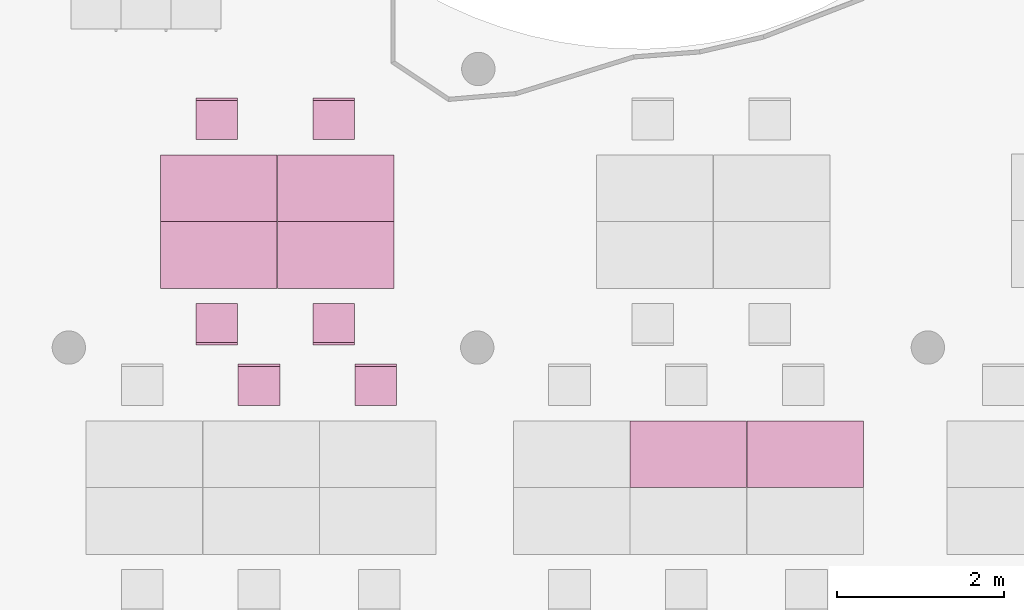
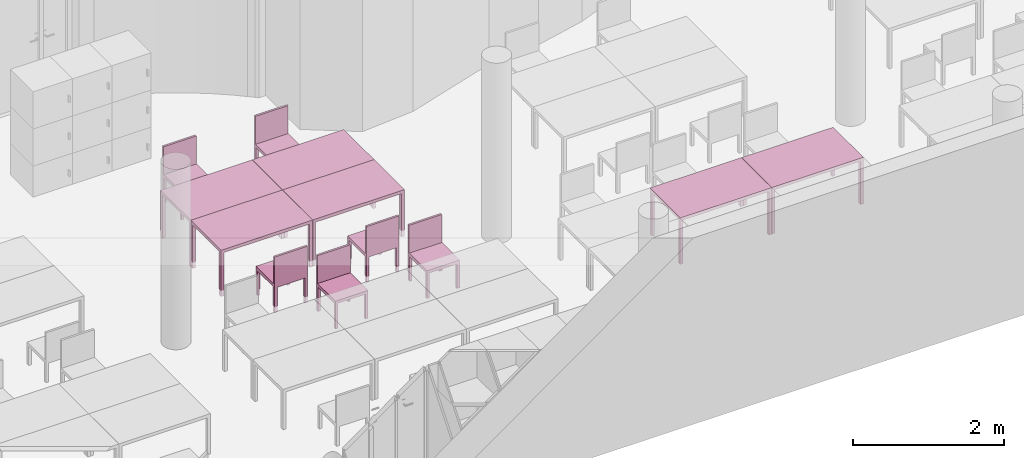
"""IFC4 building model written with IfcOpenShell, lengths in metres."""

from ifc_helpers import new_model, entity, si_unit, converted_unit, derived_unit, frame, origin, place, context, subcontext, project, spatial, faceted_brep, element, save


model = new_model("IFC4")

# Units and contexts
model_context = context("Model", 3, precision=1e-05, world=origin())
body_context = subcontext(model_context, "Body", "Model", "MODEL_VIEW")
ifc_project = project(units=[si_unit("LENGTHUNIT", "METRE"), si_unit("AREAUNIT", "SQUARE_METRE"), si_unit("VOLUMEUNIT", "CUBIC_METRE"), si_unit("MASSUNIT", "GRAM", prefix="KILO"), converted_unit("PLANEANGLEUNIT", "DEGREE", entity("IfcPlaneAngleMeasure", 0.0174532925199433), si_unit("PLANEANGLEUNIT", "RADIAN"), dimensions=[0, 0, 0, 0, 0, 0, 0]), derived_unit("THERMALTRANSMITTANCEUNIT", [(si_unit("POWERUNIT", "WATT"), 1), (si_unit("THERMODYNAMICTEMPERATUREUNIT", "KELVIN"), -1), (si_unit("LENGTHUNIT", "METRE"), -2)]), derived_unit("VOLUMETRICFLOWRATEUNIT", [(si_unit("LENGTHUNIT", "METRE"), 3), (converted_unit("TIMEUNIT", "hour", entity("IfcTimeMeasure", 3600.0), si_unit("TIMEUNIT", "SECOND"), dimensions=[0, 0, 1, 0, 0, 0, 0]), -1), (si_unit("LENGTHUNIT", "METRE"), -1)])], contexts=[model_context])

# Building, storeys
building_placement = place(None, origin())
building = spatial("IfcBuilding", under=ifc_project, at=building_placement, Name="HABITATGE PLURIFAMILIAR", CompositionType="ELEMENT")
storey_1_placement = place(building_placement, frame((0.0, 0.0, 15.28)))
storey_1 = spatial("IfcBuildingStorey", under=building, at=storey_1_placement, Name="PLANTA QUARTA", CompositionType="ELEMENT", Elevation=15.28)
storey_2_placement = place(storey_1_placement, frame((0.0, 0.0, 12.27)))
storey_2 = spatial("IfcBuildingStorey", under=storey_1, at=storey_2_placement, Name="NOU", CompositionType="PARTIAL")

# Furniture
furniture_1_placement = place(storey_2_placement, frame((412.567008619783, 16.119528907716, -12.3699999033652)))
element("IfcFurniture", 1, at=furniture_1_placement, inside=storey_2, Name="Taula 140X80_P4", context=body_context, shape_type="Brep", body=[
    faceted_brep([(0.04375, 0.05, 0.0), (0.0, 0.05, 0.0), (0.0, 0.0, 0.0), (0.04375, 0.0, 0.0), (0.04375, 0.0, 0.7), (0.0, 0.0, 0.7), (0.0, 0.05, 0.7), (0.04375, 0.05, 0.7)], [[[0, 1, 2, 3]], [[4, 5, 6, 7]], [[3, 4, 7, 0]], [[2, 5, 4, 3]], [[1, 6, 5, 2]], [[0, 7, 6, 1]]], orient=[[False], [False], [False], [False], [False], [False]]),
    faceted_brep([(0.04375, 0.800069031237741, 0.0), (0.0, 0.800069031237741, 0.0), (0.0, 0.750069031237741, 0.0), (0.04375, 0.750069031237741, 0.0), (0.04375, 0.750069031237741, 0.7), (0.0, 0.750069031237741, 0.7), (0.0, 0.800069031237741, 0.7), (0.04375, 0.800069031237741, 0.7)], [[[0, 1, 2, 3]], [[4, 5, 6, 7]], [[3, 4, 7, 0]], [[2, 5, 4, 3]], [[1, 6, 5, 2]], [[0, 7, 6, 1]]], orient=[[False], [False], [False], [False], [False], [False]]),
    faceted_brep([(1.39732768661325, 0.800069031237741, 0.7), (0.0, 0.800069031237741, 0.7), (0.0, 0.0, 0.7), (1.39732768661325, 0.0, 0.7), (1.39732768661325, 0.0, 0.75), (0.0, 0.0, 0.75), (0.0, 0.800069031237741, 0.75), (1.39732768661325, 0.800069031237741, 0.75)], [[[0, 1, 2, 3]], [[4, 5, 6, 7]], [[3, 4, 7, 0]], [[2, 5, 4, 3]], [[1, 6, 5, 2]], [[0, 7, 6, 1]]], orient=[[False], [False], [False], [False], [False], [False]]),
    faceted_brep([(1.39732768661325, 0.05, 0.0), (1.35357768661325, 0.05, 0.0), (1.35357768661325, 0.0, 0.0), (1.39732768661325, 0.0, 0.0), (1.39732768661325, 0.0, 0.7), (1.35357768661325, 0.0, 0.7), (1.35357768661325, 0.05, 0.7), (1.39732768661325, 0.05, 0.7)], [[[0, 1, 2, 3]], [[4, 5, 6, 7]], [[3, 4, 7, 0]], [[2, 5, 4, 3]], [[1, 6, 5, 2]], [[0, 7, 6, 1]]], orient=[[False], [False], [False], [False], [False], [False]]),
    faceted_brep([(1.39732768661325, 0.800069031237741, 0.0), (1.35357768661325, 0.800069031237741, 0.0), (1.35357768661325, 0.750069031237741, 0.0), (1.39732768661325, 0.750069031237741, 0.0), (1.39732768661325, 0.750069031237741, 0.7), (1.35357768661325, 0.750069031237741, 0.7), (1.35357768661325, 0.800069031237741, 0.7), (1.39732768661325, 0.800069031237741, 0.7)], [[[0, 1, 2, 3]], [[4, 5, 6, 7]], [[3, 4, 7, 0]], [[2, 5, 4, 3]], [[1, 6, 5, 2]], [[0, 7, 6, 1]]], orient=[[False], [False], [False], [False], [False], [False]]),
])
furniture_2_placement = place(storey_2_placement, frame((413.967008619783, 16.119528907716, -12.3699999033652)))
element("IfcFurniture", 2, at=furniture_2_placement, inside=storey_2, Name="Taula 140X80_P4", context=body_context, shape_type="Brep", body=[
    faceted_brep([(0.04375, 0.05, 0.0), (0.0, 0.05, 0.0), (0.0, 0.0, 0.0), (0.04375, 0.0, 0.0), (0.04375, 0.0, 0.7), (0.0, 0.0, 0.7), (0.0, 0.05, 0.7), (0.04375, 0.05, 0.7)], [[[0, 1, 2, 3]], [[4, 5, 6, 7]], [[3, 4, 7, 0]], [[2, 5, 4, 3]], [[1, 6, 5, 2]], [[0, 7, 6, 1]]], orient=[[False], [False], [False], [False], [False], [False]]),
    faceted_brep([(0.04375, 0.800069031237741, 0.0), (0.0, 0.800069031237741, 0.0), (0.0, 0.750069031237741, 0.0), (0.04375, 0.750069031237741, 0.0), (0.04375, 0.750069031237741, 0.7), (0.0, 0.750069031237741, 0.7), (0.0, 0.800069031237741, 0.7), (0.04375, 0.800069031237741, 0.7)], [[[0, 1, 2, 3]], [[4, 5, 6, 7]], [[3, 4, 7, 0]], [[2, 5, 4, 3]], [[1, 6, 5, 2]], [[0, 7, 6, 1]]], orient=[[False], [False], [False], [False], [False], [False]]),
    faceted_brep([(1.39732768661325, 0.800069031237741, 0.7), (0.0, 0.800069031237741, 0.7), (0.0, 0.0, 0.7), (1.39732768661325, 0.0, 0.7), (1.39732768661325, 0.0, 0.75), (0.0, 0.0, 0.75), (0.0, 0.800069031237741, 0.75), (1.39732768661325, 0.800069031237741, 0.75)], [[[0, 1, 2, 3]], [[4, 5, 6, 7]], [[3, 4, 7, 0]], [[2, 5, 4, 3]], [[1, 6, 5, 2]], [[0, 7, 6, 1]]], orient=[[False], [False], [False], [False], [False], [False]]),
    faceted_brep([(1.39732768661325, 0.05, 0.0), (1.35357768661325, 0.05, 0.0), (1.35357768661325, 0.0, 0.0), (1.39732768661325, 0.0, 0.0), (1.39732768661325, 0.0, 0.7), (1.35357768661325, 0.0, 0.7), (1.35357768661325, 0.05, 0.7), (1.39732768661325, 0.05, 0.7)], [[[0, 1, 2, 3]], [[4, 5, 6, 7]], [[3, 4, 7, 0]], [[2, 5, 4, 3]], [[1, 6, 5, 2]], [[0, 7, 6, 1]]], orient=[[False], [False], [False], [False], [False], [False]]),
    faceted_brep([(1.39732768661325, 0.800069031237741, 0.0), (1.35357768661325, 0.800069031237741, 0.0), (1.35357768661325, 0.750069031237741, 0.0), (1.39732768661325, 0.750069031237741, 0.0), (1.39732768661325, 0.750069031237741, 0.7), (1.35357768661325, 0.750069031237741, 0.7), (1.35357768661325, 0.800069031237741, 0.7), (1.39732768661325, 0.800069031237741, 0.7)], [[[0, 1, 2, 3]], [[4, 5, 6, 7]], [[3, 4, 7, 0]], [[2, 5, 4, 3]], [[1, 6, 5, 2]], [[0, 7, 6, 1]]], orient=[[False], [False], [False], [False], [False], [False]]),
])
furniture_3_placement = place(storey_2_placement, frame((406.936957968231, 18.5099524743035, -12.3699999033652)))
element("IfcFurniture", 3, at=furniture_3_placement, inside=storey_2, Name="Taula 140X80_P4", context=body_context, shape_type="Brep", body=[
    faceted_brep([(0.04375, 0.750069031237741, 0.0), (0.04375, 0.800069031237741, 0.0), (0.0, 0.800069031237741, 0.0), (0.0, 0.750069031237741, 0.0), (0.04375, 0.800069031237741, 0.7), (0.04375, 0.750069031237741, 0.7), (0.0, 0.750069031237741, 0.7), (0.0, 0.800069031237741, 0.7)], [[[0, 1, 2, 3]], [[4, 5, 6, 7]], [[1, 0, 5, 4]], [[2, 1, 4, 7]], [[3, 2, 7, 6]], [[0, 3, 6, 5]]], orient=[[False], [False], [False], [False], [False], [False]]),
    faceted_brep([(0.04375, 0.0, 0.0), (0.04375, 0.05, 0.0), (0.0, 0.05, 0.0), (0.0, 0.0, 0.0), (0.04375, 0.05, 0.7), (0.04375, 0.0, 0.7), (0.0, 0.0, 0.7), (0.0, 0.05, 0.7)], [[[0, 1, 2, 3]], [[4, 5, 6, 7]], [[1, 0, 5, 4]], [[2, 1, 4, 7]], [[3, 2, 7, 6]], [[0, 3, 6, 5]]], orient=[[False], [False], [False], [False], [False], [False]]),
    faceted_brep([(1.39732768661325, 0.0, 0.7), (1.39732768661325, 0.800069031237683, 0.7), (0.0, 0.800069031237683, 0.7), (0.0, 0.0, 0.7), (1.39732768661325, 0.800069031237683, 0.75), (1.39732768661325, 0.0, 0.75), (0.0, 0.0, 0.75), (0.0, 0.800069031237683, 0.75)], [[[0, 1, 2, 3]], [[4, 5, 6, 7]], [[1, 0, 5, 4]], [[2, 1, 4, 7]], [[3, 2, 7, 6]], [[0, 3, 6, 5]]], orient=[[False], [False], [False], [False], [False], [False]]),
    faceted_brep([(1.39732768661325, 0.750069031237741, 0.0), (1.39732768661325, 0.800069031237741, 0.0), (1.35357768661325, 0.800069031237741, 0.0), (1.35357768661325, 0.750069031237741, 0.0), (1.39732768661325, 0.800069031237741, 0.7), (1.39732768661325, 0.750069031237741, 0.7), (1.35357768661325, 0.750069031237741, 0.7), (1.35357768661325, 0.800069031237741, 0.7)], [[[0, 1, 2, 3]], [[4, 5, 6, 7]], [[1, 0, 5, 4]], [[2, 1, 4, 7]], [[3, 2, 7, 6]], [[0, 3, 6, 5]]], orient=[[False], [False], [False], [False], [False], [False]]),
    faceted_brep([(1.39732768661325, 0.0, 0.0), (1.39732768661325, 0.05, 0.0), (1.35357768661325, 0.05, 0.0), (1.35357768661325, 0.0, 0.0), (1.39732768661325, 0.05, 0.7), (1.39732768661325, 0.0, 0.7), (1.35357768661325, 0.0, 0.7), (1.35357768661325, 0.05, 0.7)], [[[0, 1, 2, 3]], [[4, 5, 6, 7]], [[1, 0, 5, 4]], [[2, 1, 4, 7]], [[3, 2, 7, 6]], [[0, 3, 6, 5]]], orient=[[False], [False], [False], [False], [False], [False]]),
])
furniture_4_placement = place(storey_2_placement, frame((408.338137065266, 18.5099524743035, -12.3699999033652)))
element("IfcFurniture", 4, at=furniture_4_placement, inside=storey_2, Name="Taula 140X80_P4", context=body_context, shape_type="Brep", body=[
    faceted_brep([(0.04375, 0.750069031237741, 0.0), (0.04375, 0.800069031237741, 0.0), (0.0, 0.800069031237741, 0.0), (0.0, 0.750069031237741, 0.0), (0.04375, 0.800069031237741, 0.7), (0.04375, 0.750069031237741, 0.7), (0.0, 0.750069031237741, 0.7), (0.0, 0.800069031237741, 0.7)], [[[0, 1, 2, 3]], [[4, 5, 6, 7]], [[1, 0, 5, 4]], [[2, 1, 4, 7]], [[3, 2, 7, 6]], [[0, 3, 6, 5]]], orient=[[False], [False], [False], [False], [False], [False]]),
    faceted_brep([(0.04375, 0.0, 0.0), (0.04375, 0.05, 0.0), (0.0, 0.05, 0.0), (0.0, 0.0, 0.0), (0.04375, 0.05, 0.7), (0.04375, 0.0, 0.7), (0.0, 0.0, 0.7), (0.0, 0.05, 0.7)], [[[0, 1, 2, 3]], [[4, 5, 6, 7]], [[1, 0, 5, 4]], [[2, 1, 4, 7]], [[3, 2, 7, 6]], [[0, 3, 6, 5]]], orient=[[False], [False], [False], [False], [False], [False]]),
    faceted_brep([(1.39732768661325, 0.0, 0.7), (1.39732768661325, 0.800069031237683, 0.7), (0.0, 0.800069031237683, 0.7), (0.0, 0.0, 0.7), (1.39732768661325, 0.800069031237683, 0.75), (1.39732768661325, 0.0, 0.75), (0.0, 0.0, 0.75), (0.0, 0.800069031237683, 0.75)], [[[0, 1, 2, 3]], [[4, 5, 6, 7]], [[1, 0, 5, 4]], [[2, 1, 4, 7]], [[3, 2, 7, 6]], [[0, 3, 6, 5]]], orient=[[False], [False], [False], [False], [False], [False]]),
    faceted_brep([(1.39732768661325, 0.750069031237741, 0.0), (1.39732768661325, 0.800069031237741, 0.0), (1.35357768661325, 0.800069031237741, 0.0), (1.35357768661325, 0.750069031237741, 0.0), (1.39732768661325, 0.800069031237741, 0.7), (1.39732768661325, 0.750069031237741, 0.7), (1.35357768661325, 0.750069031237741, 0.7), (1.35357768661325, 0.800069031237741, 0.7)], [[[0, 1, 2, 3]], [[4, 5, 6, 7]], [[1, 0, 5, 4]], [[2, 1, 4, 7]], [[3, 2, 7, 6]], [[0, 3, 6, 5]]], orient=[[False], [False], [False], [False], [False], [False]]),
    faceted_brep([(1.39732768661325, 0.0, 0.0), (1.39732768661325, 0.05, 0.0), (1.35357768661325, 0.05, 0.0), (1.35357768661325, 0.0, 0.0), (1.39732768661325, 0.05, 0.7), (1.39732768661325, 0.0, 0.7), (1.35357768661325, 0.0, 0.7), (1.35357768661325, 0.05, 0.7)], [[[0, 1, 2, 3]], [[4, 5, 6, 7]], [[1, 0, 5, 4]], [[2, 1, 4, 7]], [[3, 2, 7, 6]], [[0, 3, 6, 5]]], orient=[[False], [False], [False], [False], [False], [False]]),
])
furniture_5_placement = place(storey_2_placement, frame((408.338137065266, 19.3100215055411, -12.3699999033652)))
element("IfcFurniture", 5, at=furniture_5_placement, inside=storey_2, Name="Taula 140X80_P4", context=body_context, shape_type="Brep", body=[
    faceted_brep([(0.04375, 0.05, 0.0), (0.0, 0.05, 0.0), (0.0, 0.0, 0.0), (0.04375, 0.0, 0.0), (0.04375, 0.0, 0.7), (0.0, 0.0, 0.7), (0.0, 0.05, 0.7), (0.04375, 0.05, 0.7)], [[[0, 1, 2, 3]], [[4, 5, 6, 7]], [[3, 4, 7, 0]], [[2, 5, 4, 3]], [[1, 6, 5, 2]], [[0, 7, 6, 1]]], orient=[[False], [False], [False], [False], [False], [False]]),
    faceted_brep([(0.04375, 0.800069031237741, 0.0), (0.0, 0.800069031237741, 0.0), (0.0, 0.750069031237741, 0.0), (0.04375, 0.750069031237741, 0.0), (0.04375, 0.750069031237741, 0.7), (0.0, 0.750069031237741, 0.7), (0.0, 0.800069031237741, 0.7), (0.04375, 0.800069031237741, 0.7)], [[[0, 1, 2, 3]], [[4, 5, 6, 7]], [[3, 4, 7, 0]], [[2, 5, 4, 3]], [[1, 6, 5, 2]], [[0, 7, 6, 1]]], orient=[[False], [False], [False], [False], [False], [False]]),
    faceted_brep([(1.39732768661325, 0.800069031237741, 0.7), (0.0, 0.800069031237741, 0.7), (0.0, 0.0, 0.7), (1.39732768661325, 0.0, 0.7), (1.39732768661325, 0.0, 0.75), (0.0, 0.0, 0.75), (0.0, 0.800069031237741, 0.75), (1.39732768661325, 0.800069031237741, 0.75)], [[[0, 1, 2, 3]], [[4, 5, 6, 7]], [[3, 4, 7, 0]], [[2, 5, 4, 3]], [[1, 6, 5, 2]], [[0, 7, 6, 1]]], orient=[[False], [False], [False], [False], [False], [False]]),
    faceted_brep([(1.39732768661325, 0.05, 0.0), (1.35357768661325, 0.05, 0.0), (1.35357768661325, 0.0, 0.0), (1.39732768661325, 0.0, 0.0), (1.39732768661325, 0.0, 0.7), (1.35357768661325, 0.0, 0.7), (1.35357768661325, 0.05, 0.7), (1.39732768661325, 0.05, 0.7)], [[[0, 1, 2, 3]], [[4, 5, 6, 7]], [[3, 4, 7, 0]], [[2, 5, 4, 3]], [[1, 6, 5, 2]], [[0, 7, 6, 1]]], orient=[[False], [False], [False], [False], [False], [False]]),
    faceted_brep([(1.39732768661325, 0.800069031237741, 0.0), (1.35357768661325, 0.800069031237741, 0.0), (1.35357768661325, 0.750069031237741, 0.0), (1.39732768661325, 0.750069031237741, 0.0), (1.39732768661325, 0.750069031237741, 0.7), (1.35357768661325, 0.750069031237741, 0.7), (1.35357768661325, 0.800069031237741, 0.7), (1.39732768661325, 0.800069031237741, 0.7)], [[[0, 1, 2, 3]], [[4, 5, 6, 7]], [[3, 4, 7, 0]], [[2, 5, 4, 3]], [[1, 6, 5, 2]], [[0, 7, 6, 1]]], orient=[[False], [False], [False], [False], [False], [False]]),
])
furniture_6_placement = place(storey_2_placement, frame((406.936957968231, 19.3100215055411, -12.3699999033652)))
element("IfcFurniture", 6, at=furniture_6_placement, inside=storey_2, Name="Taula 140X80_P4", context=body_context, shape_type="Brep", body=[
    faceted_brep([(0.04375, 0.05, 0.0), (0.0, 0.05, 0.0), (0.0, 0.0, 0.0), (0.04375, 0.0, 0.0), (0.04375, 0.0, 0.7), (0.0, 0.0, 0.7), (0.0, 0.05, 0.7), (0.04375, 0.05, 0.7)], [[[0, 1, 2, 3]], [[4, 5, 6, 7]], [[3, 4, 7, 0]], [[2, 5, 4, 3]], [[1, 6, 5, 2]], [[0, 7, 6, 1]]], orient=[[False], [False], [False], [False], [False], [False]]),
    faceted_brep([(0.04375, 0.800069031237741, 0.0), (0.0, 0.800069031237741, 0.0), (0.0, 0.750069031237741, 0.0), (0.04375, 0.750069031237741, 0.0), (0.04375, 0.750069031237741, 0.7), (0.0, 0.750069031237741, 0.7), (0.0, 0.800069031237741, 0.7), (0.04375, 0.800069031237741, 0.7)], [[[0, 1, 2, 3]], [[4, 5, 6, 7]], [[3, 4, 7, 0]], [[2, 5, 4, 3]], [[1, 6, 5, 2]], [[0, 7, 6, 1]]], orient=[[False], [False], [False], [False], [False], [False]]),
    faceted_brep([(1.39732768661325, 0.800069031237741, 0.7), (0.0, 0.800069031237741, 0.7), (0.0, 0.0, 0.7), (1.39732768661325, 0.0, 0.7), (1.39732768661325, 0.0, 0.75), (0.0, 0.0, 0.75), (0.0, 0.800069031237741, 0.75), (1.39732768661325, 0.800069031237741, 0.75)], [[[0, 1, 2, 3]], [[4, 5, 6, 7]], [[3, 4, 7, 0]], [[2, 5, 4, 3]], [[1, 6, 5, 2]], [[0, 7, 6, 1]]], orient=[[False], [False], [False], [False], [False], [False]]),
    faceted_brep([(1.39732768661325, 0.05, 0.0), (1.35357768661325, 0.05, 0.0), (1.35357768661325, 0.0, 0.0), (1.39732768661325, 0.0, 0.0), (1.39732768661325, 0.0, 0.7), (1.35357768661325, 0.0, 0.7), (1.35357768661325, 0.05, 0.7), (1.39732768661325, 0.05, 0.7)], [[[0, 1, 2, 3]], [[4, 5, 6, 7]], [[3, 4, 7, 0]], [[2, 5, 4, 3]], [[1, 6, 5, 2]], [[0, 7, 6, 1]]], orient=[[False], [False], [False], [False], [False], [False]]),
    faceted_brep([(1.39732768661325, 0.800069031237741, 0.0), (1.35357768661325, 0.800069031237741, 0.0), (1.35357768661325, 0.750069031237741, 0.0), (1.39732768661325, 0.750069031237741, 0.0), (1.39732768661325, 0.750069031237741, 0.7), (1.35357768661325, 0.750069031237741, 0.7), (1.35357768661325, 0.800069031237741, 0.7), (1.39732768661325, 0.800069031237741, 0.7)], [[[0, 1, 2, 3]], [[4, 5, 6, 7]], [[3, 4, 7, 0]], [[2, 5, 4, 3]], [[1, 6, 5, 2]], [[0, 7, 6, 1]]], orient=[[False], [False], [False], [False], [False], [False]]),
])
furniture_7_placement = place(storey_2_placement, frame((407.868161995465, 17.1018108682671, -12.3640610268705)))
element("IfcFurniture", 7, at=furniture_7_placement, inside=storey_2, Name="Cadira d'Oficina_P4", context=body_context, shape_type="Brep", body=[
    faceted_brep([(0.5, 0.0, 0.399999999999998), (0.5, 0.500000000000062, 0.399999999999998), (0.0, 0.5, 0.399999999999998), (0.0, 0.0, 0.399999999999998), (0.5, 0.500000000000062, 0.449999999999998), (0.5, 0.0, 0.449999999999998), (0.0, 0.0, 0.449999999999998), (0.0, 0.5, 0.449999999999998)], [[[0, 1, 2, 3]], [[4, 5, 6, 7]], [[1, 0, 5, 4]], [[2, 1, 4, 7]], [[3, 2, 7, 6]], [[0, 3, 6, 5]]], orient=[[False], [False], [False], [False], [False], [False]]),
    faceted_brep([(0.0, 0.46, 0.0), (0.04, 0.46, 0.0), (0.04, 0.5, 0.0), (0.0, 0.5, 0.0), (0.04, 0.46, 0.4), (0.0, 0.46, 0.4), (0.0, 0.5, 0.4), (0.04, 0.5, 0.4)], [[[0, 1, 2, 3]], [[4, 5, 6, 7]], [[1, 0, 5, 4]], [[2, 1, 4, 7]], [[3, 2, 7, 6]], [[0, 3, 6, 5]]], orient=[[False], [False], [False], [False], [False], [False]]),
    faceted_brep([(0.0, 0.0, 0.0), (0.04, 0.0, 0.0), (0.04, 0.04, 0.0), (0.0, 0.04, 0.0), (0.04, 0.0, 0.4), (0.0, 0.0, 0.4), (0.0, 0.04, 0.4), (0.04, 0.04, 0.4)], [[[0, 1, 2, 3]], [[4, 5, 6, 7]], [[1, 0, 5, 4]], [[2, 1, 4, 7]], [[3, 2, 7, 6]], [[0, 3, 6, 5]]], orient=[[False], [False], [False], [False], [False], [False]]),
    faceted_brep([(0.46, 0.460000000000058, 0.0), (0.5, 0.460000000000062, 0.0), (0.5, 0.500000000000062, 0.0), (0.46, 0.500000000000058, 0.0), (0.5, 0.460000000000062, 0.4), (0.46, 0.460000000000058, 0.4), (0.46, 0.500000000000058, 0.4), (0.5, 0.500000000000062, 0.4)], [[[0, 1, 2, 3]], [[4, 5, 6, 7]], [[1, 0, 5, 4]], [[2, 1, 4, 7]], [[3, 2, 7, 6]], [[0, 3, 6, 5]]], orient=[[False], [False], [False], [False], [False], [False]]),
    faceted_brep([(0.46, 0.0, 0.0), (0.5, 0.0, 0.0), (0.5, 0.0400000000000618, 0.0), (0.46, 0.0400000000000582, 0.0), (0.5, 0.0, 0.4), (0.46, 0.0, 0.4), (0.46, 0.0400000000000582, 0.4), (0.5, 0.0400000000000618, 0.4)], [[[0, 1, 2, 3]], [[4, 5, 6, 7]], [[1, 0, 5, 4]], [[2, 1, 4, 7]], [[3, 2, 7, 6]], [[0, 3, 6, 5]]], orient=[[False], [False], [False], [False], [False], [False]]),
    faceted_brep([(0.0, 0.47, 0.45), (0.5, 0.470000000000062, 0.45), (0.5, 0.500000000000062, 0.45), (0.0, 0.5, 0.45), (0.5, 0.470000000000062, 0.9), (0.0, 0.47, 0.9), (0.0, 0.5, 0.9), (0.5, 0.500000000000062, 0.9)], [[[0, 1, 2, 3]], [[4, 5, 6, 7]], [[1, 0, 5, 4]], [[2, 1, 4, 7]], [[3, 2, 7, 6]], [[0, 3, 6, 5]]], orient=[[False], [False], [False], [False], [False], [False]]),
])
furniture_8_placement = place(storey_2_placement, frame((409.268161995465, 17.1018108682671, -12.3640610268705)))
element("IfcFurniture", 8, at=furniture_8_placement, inside=storey_2, Name="Cadira d'Oficina_P4", context=body_context, shape_type="Brep", body=[
    faceted_brep([(0.5, 0.0, 0.399999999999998), (0.5, 0.500000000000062, 0.399999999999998), (0.0, 0.5, 0.399999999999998), (0.0, 0.0, 0.399999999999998), (0.5, 0.500000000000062, 0.449999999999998), (0.5, 0.0, 0.449999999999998), (0.0, 0.0, 0.449999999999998), (0.0, 0.5, 0.449999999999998)], [[[0, 1, 2, 3]], [[4, 5, 6, 7]], [[1, 0, 5, 4]], [[2, 1, 4, 7]], [[3, 2, 7, 6]], [[0, 3, 6, 5]]], orient=[[False], [False], [False], [False], [False], [False]]),
    faceted_brep([(0.0, 0.46, 0.0), (0.04, 0.46, 0.0), (0.04, 0.5, 0.0), (0.0, 0.5, 0.0), (0.04, 0.46, 0.4), (0.0, 0.46, 0.4), (0.0, 0.5, 0.4), (0.04, 0.5, 0.4)], [[[0, 1, 2, 3]], [[4, 5, 6, 7]], [[1, 0, 5, 4]], [[2, 1, 4, 7]], [[3, 2, 7, 6]], [[0, 3, 6, 5]]], orient=[[False], [False], [False], [False], [False], [False]]),
    faceted_brep([(0.0, 0.0, 0.0), (0.04, 0.0, 0.0), (0.04, 0.04, 0.0), (0.0, 0.04, 0.0), (0.04, 0.0, 0.4), (0.0, 0.0, 0.4), (0.0, 0.04, 0.4), (0.04, 0.04, 0.4)], [[[0, 1, 2, 3]], [[4, 5, 6, 7]], [[1, 0, 5, 4]], [[2, 1, 4, 7]], [[3, 2, 7, 6]], [[0, 3, 6, 5]]], orient=[[False], [False], [False], [False], [False], [False]]),
    faceted_brep([(0.46, 0.460000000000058, 0.0), (0.5, 0.460000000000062, 0.0), (0.5, 0.500000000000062, 0.0), (0.46, 0.500000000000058, 0.0), (0.5, 0.460000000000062, 0.4), (0.46, 0.460000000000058, 0.4), (0.46, 0.500000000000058, 0.4), (0.5, 0.500000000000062, 0.4)], [[[0, 1, 2, 3]], [[4, 5, 6, 7]], [[1, 0, 5, 4]], [[2, 1, 4, 7]], [[3, 2, 7, 6]], [[0, 3, 6, 5]]], orient=[[False], [False], [False], [False], [False], [False]]),
    faceted_brep([(0.46, 0.0, 0.0), (0.5, 0.0, 0.0), (0.5, 0.0400000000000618, 0.0), (0.46, 0.0400000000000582, 0.0), (0.5, 0.0, 0.4), (0.46, 0.0, 0.4), (0.46, 0.0400000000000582, 0.4), (0.5, 0.0400000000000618, 0.4)], [[[0, 1, 2, 3]], [[4, 5, 6, 7]], [[1, 0, 5, 4]], [[2, 1, 4, 7]], [[3, 2, 7, 6]], [[0, 3, 6, 5]]], orient=[[False], [False], [False], [False], [False], [False]]),
    faceted_brep([(0.0, 0.47, 0.45), (0.5, 0.470000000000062, 0.45), (0.5, 0.500000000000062, 0.45), (0.0, 0.5, 0.45), (0.5, 0.470000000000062, 0.9), (0.0, 0.47, 0.9), (0.0, 0.5, 0.9), (0.5, 0.500000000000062, 0.9)], [[[0, 1, 2, 3]], [[4, 5, 6, 7]], [[1, 0, 5, 4]], [[2, 1, 4, 7]], [[3, 2, 7, 6]], [[0, 3, 6, 5]]], orient=[[False], [False], [False], [False], [False], [False]]),
])
furniture_9_placement = place(storey_2_placement, frame((407.361648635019, 17.82773954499, -12.3653305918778)))
element("IfcFurniture", 9, at=furniture_9_placement, inside=storey_2, Name="Cadira d'Oficina_P4", context=body_context, shape_type="Brep", body=[
    faceted_brep([(0.5, 0.5, 0.399999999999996), (0.0, 0.500000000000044, 0.399999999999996), (0.0, 0.0, 0.399999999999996), (0.5, 0.0, 0.399999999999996), (0.5, 0.0, 0.449999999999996), (0.0, 0.0, 0.449999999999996), (0.0, 0.500000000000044, 0.449999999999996), (0.5, 0.5, 0.449999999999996)], [[[0, 1, 2, 3]], [[4, 5, 6, 7]], [[3, 4, 7, 0]], [[2, 5, 4, 3]], [[1, 6, 5, 2]], [[0, 7, 6, 1]]], orient=[[False], [False], [False], [False], [False], [False]]),
    faceted_brep([(0.0, 0.0400000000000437, 0.0), (0.0, 0.0, 0.0), (0.04, 0.0, 0.0), (0.04, 0.0400000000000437, 0.0), (0.04, 0.0400000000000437, 0.4), (0.04, 0.0, 0.4), (0.0, 0.0, 0.4), (0.0, 0.0400000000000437, 0.4)], [[[0, 1, 2, 3]], [[4, 5, 6, 7]], [[3, 4, 7, 0]], [[2, 5, 4, 3]], [[1, 6, 5, 2]], [[0, 7, 6, 1]]], orient=[[False], [False], [False], [False], [False], [False]]),
    faceted_brep([(0.0, 0.500000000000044, 0.0), (0.0, 0.460000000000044, 0.0), (0.04, 0.460000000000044, 0.0), (0.04, 0.500000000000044, 0.0), (0.04, 0.500000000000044, 0.4), (0.04, 0.460000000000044, 0.4), (0.0, 0.460000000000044, 0.4), (0.0, 0.500000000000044, 0.4)], [[[0, 1, 2, 3]], [[4, 5, 6, 7]], [[3, 4, 7, 0]], [[2, 5, 4, 3]], [[1, 6, 5, 2]], [[0, 7, 6, 1]]], orient=[[False], [False], [False], [False], [False], [False]]),
    faceted_brep([(0.46, 0.04, 0.0), (0.46, 0.0, 0.0), (0.5, 0.0, 0.0), (0.5, 0.04, 0.0), (0.5, 0.04, 0.4), (0.5, 0.0, 0.4), (0.46, 0.0, 0.4), (0.46, 0.04, 0.4)], [[[0, 1, 2, 3]], [[4, 5, 6, 7]], [[3, 4, 7, 0]], [[2, 5, 4, 3]], [[1, 6, 5, 2]], [[0, 7, 6, 1]]], orient=[[False], [False], [False], [False], [False], [False]]),
    faceted_brep([(0.46, 0.5, 0.0), (0.46, 0.46, 0.0), (0.5, 0.46, 0.0), (0.5, 0.5, 0.0), (0.5, 0.5, 0.4), (0.5, 0.46, 0.4), (0.46, 0.46, 0.4), (0.46, 0.5, 0.4)], [[[0, 1, 2, 3]], [[4, 5, 6, 7]], [[3, 4, 7, 0]], [[2, 5, 4, 3]], [[1, 6, 5, 2]], [[0, 7, 6, 1]]], orient=[[False], [False], [False], [False], [False], [False]]),
    faceted_brep([(0.0, 0.0300000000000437, 0.45), (0.0, 0.0, 0.45), (0.5, 0.0, 0.45), (0.5, 0.03, 0.45), (0.5, 0.03, 0.9), (0.5, 0.0, 0.9), (0.0, 0.0, 0.9), (0.0, 0.0300000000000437, 0.9)], [[[0, 1, 2, 3]], [[4, 5, 6, 7]], [[3, 4, 7, 0]], [[2, 5, 4, 3]], [[1, 6, 5, 2]], [[0, 7, 6, 1]]], orient=[[False], [False], [False], [False], [False], [False]]),
])
furniture_10_placement = place(storey_2_placement, frame((408.762827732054, 17.82773954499, -12.3653305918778)))
element("IfcFurniture", 10, at=furniture_10_placement, inside=storey_2, Name="Cadira d'Oficina_P4", context=body_context, shape_type="Brep", body=[
    faceted_brep([(0.5, 0.5, 0.399999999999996), (0.0, 0.500000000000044, 0.399999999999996), (0.0, 0.0, 0.399999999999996), (0.5, 0.0, 0.399999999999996), (0.5, 0.0, 0.449999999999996), (0.0, 0.0, 0.449999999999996), (0.0, 0.500000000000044, 0.449999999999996), (0.5, 0.5, 0.449999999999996)], [[[0, 1, 2, 3]], [[4, 5, 6, 7]], [[3, 4, 7, 0]], [[2, 5, 4, 3]], [[1, 6, 5, 2]], [[0, 7, 6, 1]]], orient=[[False], [False], [False], [False], [False], [False]]),
    faceted_brep([(0.0, 0.0400000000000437, 0.0), (0.0, 0.0, 0.0), (0.04, 0.0, 0.0), (0.04, 0.0400000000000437, 0.0), (0.04, 0.0400000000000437, 0.4), (0.04, 0.0, 0.4), (0.0, 0.0, 0.4), (0.0, 0.0400000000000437, 0.4)], [[[0, 1, 2, 3]], [[4, 5, 6, 7]], [[3, 4, 7, 0]], [[2, 5, 4, 3]], [[1, 6, 5, 2]], [[0, 7, 6, 1]]], orient=[[False], [False], [False], [False], [False], [False]]),
    faceted_brep([(0.0, 0.500000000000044, 0.0), (0.0, 0.460000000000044, 0.0), (0.04, 0.460000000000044, 0.0), (0.04, 0.500000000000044, 0.0), (0.04, 0.500000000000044, 0.4), (0.04, 0.460000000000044, 0.4), (0.0, 0.460000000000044, 0.4), (0.0, 0.500000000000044, 0.4)], [[[0, 1, 2, 3]], [[4, 5, 6, 7]], [[3, 4, 7, 0]], [[2, 5, 4, 3]], [[1, 6, 5, 2]], [[0, 7, 6, 1]]], orient=[[False], [False], [False], [False], [False], [False]]),
    faceted_brep([(0.46, 0.04, 0.0), (0.46, 0.0, 0.0), (0.5, 0.0, 0.0), (0.5, 0.04, 0.0), (0.5, 0.04, 0.4), (0.5, 0.0, 0.4), (0.46, 0.0, 0.4), (0.46, 0.04, 0.4)], [[[0, 1, 2, 3]], [[4, 5, 6, 7]], [[3, 4, 7, 0]], [[2, 5, 4, 3]], [[1, 6, 5, 2]], [[0, 7, 6, 1]]], orient=[[False], [False], [False], [False], [False], [False]]),
    faceted_brep([(0.46, 0.5, 0.0), (0.46, 0.46, 0.0), (0.5, 0.46, 0.0), (0.5, 0.5, 0.0), (0.5, 0.5, 0.4), (0.5, 0.46, 0.4), (0.46, 0.46, 0.4), (0.46, 0.5, 0.4)], [[[0, 1, 2, 3]], [[4, 5, 6, 7]], [[3, 4, 7, 0]], [[2, 5, 4, 3]], [[1, 6, 5, 2]], [[0, 7, 6, 1]]], orient=[[False], [False], [False], [False], [False], [False]]),
    faceted_brep([(0.0, 0.0300000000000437, 0.45), (0.0, 0.0, 0.45), (0.5, 0.0, 0.45), (0.5, 0.03, 0.45), (0.5, 0.03, 0.9), (0.5, 0.0, 0.9), (0.0, 0.0, 0.9), (0.0, 0.0300000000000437, 0.9)], [[[0, 1, 2, 3]], [[4, 5, 6, 7]], [[3, 4, 7, 0]], [[2, 5, 4, 3]], [[1, 6, 5, 2]], [[0, 7, 6, 1]]], orient=[[False], [False], [False], [False], [False], [False]]),
])
furniture_11_placement = place(storey_2_placement, frame((408.762827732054, 20.2923034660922, -12.3640610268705)))
element("IfcFurniture", 11, at=furniture_11_placement, inside=storey_2, Name="Cadira d'Oficina_P4", context=body_context, shape_type="Brep", body=[
    faceted_brep([(0.5, 0.0, 0.399999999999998), (0.5, 0.500000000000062, 0.399999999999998), (0.0, 0.5, 0.399999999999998), (0.0, 0.0, 0.399999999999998), (0.5, 0.500000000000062, 0.449999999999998), (0.5, 0.0, 0.449999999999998), (0.0, 0.0, 0.449999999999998), (0.0, 0.5, 0.449999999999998)], [[[0, 1, 2, 3]], [[4, 5, 6, 7]], [[1, 0, 5, 4]], [[2, 1, 4, 7]], [[3, 2, 7, 6]], [[0, 3, 6, 5]]], orient=[[False], [False], [False], [False], [False], [False]]),
    faceted_brep([(0.0, 0.46, 0.0), (0.04, 0.46, 0.0), (0.04, 0.5, 0.0), (0.0, 0.5, 0.0), (0.04, 0.46, 0.4), (0.0, 0.46, 0.4), (0.0, 0.5, 0.4), (0.04, 0.5, 0.4)], [[[0, 1, 2, 3]], [[4, 5, 6, 7]], [[1, 0, 5, 4]], [[2, 1, 4, 7]], [[3, 2, 7, 6]], [[0, 3, 6, 5]]], orient=[[False], [False], [False], [False], [False], [False]]),
    faceted_brep([(0.0, 0.0, 0.0), (0.04, 0.0, 0.0), (0.04, 0.04, 0.0), (0.0, 0.04, 0.0), (0.04, 0.0, 0.4), (0.0, 0.0, 0.4), (0.0, 0.04, 0.4), (0.04, 0.04, 0.4)], [[[0, 1, 2, 3]], [[4, 5, 6, 7]], [[1, 0, 5, 4]], [[2, 1, 4, 7]], [[3, 2, 7, 6]], [[0, 3, 6, 5]]], orient=[[False], [False], [False], [False], [False], [False]]),
    faceted_brep([(0.46, 0.460000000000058, 0.0), (0.5, 0.460000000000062, 0.0), (0.5, 0.500000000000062, 0.0), (0.46, 0.500000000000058, 0.0), (0.5, 0.460000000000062, 0.4), (0.46, 0.460000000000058, 0.4), (0.46, 0.500000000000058, 0.4), (0.5, 0.500000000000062, 0.4)], [[[0, 1, 2, 3]], [[4, 5, 6, 7]], [[1, 0, 5, 4]], [[2, 1, 4, 7]], [[3, 2, 7, 6]], [[0, 3, 6, 5]]], orient=[[False], [False], [False], [False], [False], [False]]),
    faceted_brep([(0.46, 0.0, 0.0), (0.5, 0.0, 0.0), (0.5, 0.0400000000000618, 0.0), (0.46, 0.0400000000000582, 0.0), (0.5, 0.0, 0.4), (0.46, 0.0, 0.4), (0.46, 0.0400000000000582, 0.4), (0.5, 0.0400000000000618, 0.4)], [[[0, 1, 2, 3]], [[4, 5, 6, 7]], [[1, 0, 5, 4]], [[2, 1, 4, 7]], [[3, 2, 7, 6]], [[0, 3, 6, 5]]], orient=[[False], [False], [False], [False], [False], [False]]),
    faceted_brep([(0.0, 0.47, 0.45), (0.5, 0.470000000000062, 0.45), (0.5, 0.500000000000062, 0.45), (0.0, 0.5, 0.45), (0.5, 0.470000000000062, 0.9), (0.0, 0.47, 0.9), (0.0, 0.5, 0.9), (0.5, 0.500000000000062, 0.9)], [[[0, 1, 2, 3]], [[4, 5, 6, 7]], [[1, 0, 5, 4]], [[2, 1, 4, 7]], [[3, 2, 7, 6]], [[0, 3, 6, 5]]], orient=[[False], [False], [False], [False], [False], [False]]),
])
furniture_12_placement = place(storey_2_placement, frame((407.361648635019, 20.2923034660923, -12.3640610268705)))
element("IfcFurniture", 12, at=furniture_12_placement, inside=storey_2, Name="Cadira d'Oficina_P4", context=body_context, shape_type="Brep", body=[
    faceted_brep([(0.5, 0.0, 0.399999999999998), (0.5, 0.500000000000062, 0.399999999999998), (0.0, 0.5, 0.399999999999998), (0.0, 0.0, 0.399999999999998), (0.5, 0.500000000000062, 0.449999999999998), (0.5, 0.0, 0.449999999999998), (0.0, 0.0, 0.449999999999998), (0.0, 0.5, 0.449999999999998)], [[[0, 1, 2, 3]], [[4, 5, 6, 7]], [[1, 0, 5, 4]], [[2, 1, 4, 7]], [[3, 2, 7, 6]], [[0, 3, 6, 5]]], orient=[[False], [False], [False], [False], [False], [False]]),
    faceted_brep([(0.0, 0.46, 0.0), (0.04, 0.46, 0.0), (0.04, 0.5, 0.0), (0.0, 0.5, 0.0), (0.04, 0.46, 0.4), (0.0, 0.46, 0.4), (0.0, 0.5, 0.4), (0.04, 0.5, 0.4)], [[[0, 1, 2, 3]], [[4, 5, 6, 7]], [[1, 0, 5, 4]], [[2, 1, 4, 7]], [[3, 2, 7, 6]], [[0, 3, 6, 5]]], orient=[[False], [False], [False], [False], [False], [False]]),
    faceted_brep([(0.0, 0.0, 0.0), (0.04, 0.0, 0.0), (0.04, 0.04, 0.0), (0.0, 0.04, 0.0), (0.04, 0.0, 0.4), (0.0, 0.0, 0.4), (0.0, 0.04, 0.4), (0.04, 0.04, 0.4)], [[[0, 1, 2, 3]], [[4, 5, 6, 7]], [[1, 0, 5, 4]], [[2, 1, 4, 7]], [[3, 2, 7, 6]], [[0, 3, 6, 5]]], orient=[[False], [False], [False], [False], [False], [False]]),
    faceted_brep([(0.46, 0.460000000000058, 0.0), (0.5, 0.460000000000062, 0.0), (0.5, 0.500000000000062, 0.0), (0.46, 0.500000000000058, 0.0), (0.5, 0.460000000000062, 0.4), (0.46, 0.460000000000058, 0.4), (0.46, 0.500000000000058, 0.4), (0.5, 0.500000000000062, 0.4)], [[[0, 1, 2, 3]], [[4, 5, 6, 7]], [[1, 0, 5, 4]], [[2, 1, 4, 7]], [[3, 2, 7, 6]], [[0, 3, 6, 5]]], orient=[[False], [False], [False], [False], [False], [False]]),
    faceted_brep([(0.46, 0.0, 0.0), (0.5, 0.0, 0.0), (0.5, 0.0400000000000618, 0.0), (0.46, 0.0400000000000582, 0.0), (0.5, 0.0, 0.4), (0.46, 0.0, 0.4), (0.46, 0.0400000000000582, 0.4), (0.5, 0.0400000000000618, 0.4)], [[[0, 1, 2, 3]], [[4, 5, 6, 7]], [[1, 0, 5, 4]], [[2, 1, 4, 7]], [[3, 2, 7, 6]], [[0, 3, 6, 5]]], orient=[[False], [False], [False], [False], [False], [False]]),
    faceted_brep([(0.0, 0.47, 0.45), (0.5, 0.470000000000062, 0.45), (0.5, 0.500000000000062, 0.45), (0.0, 0.5, 0.45), (0.5, 0.470000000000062, 0.9), (0.0, 0.47, 0.9), (0.0, 0.5, 0.9), (0.5, 0.500000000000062, 0.9)], [[[0, 1, 2, 3]], [[4, 5, 6, 7]], [[1, 0, 5, 4]], [[2, 1, 4, 7]], [[3, 2, 7, 6]], [[0, 3, 6, 5]]], orient=[[False], [False], [False], [False], [False], [False]]),
])

save(model, "model.ifc")
